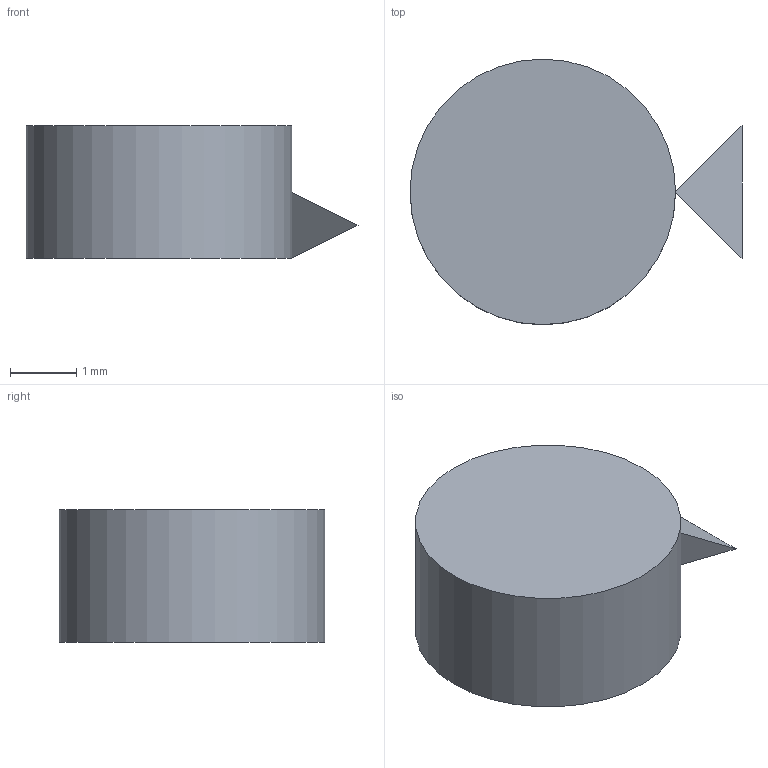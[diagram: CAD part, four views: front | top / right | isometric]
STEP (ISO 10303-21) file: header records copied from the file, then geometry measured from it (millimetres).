
FILE_DESCRIPTION(('BRL-CAD AP214 distinct-edge keyhole topology fixture'),'2;1');
FILE_NAME('ap214_distinct_edge_keyhole_rejoin.stp','2026-07-26T00:00:00',('BRL-CAD'),('BRL-CAD'),'','','');
FILE_SCHEMA(('AUTOMOTIVE_DESIGN { 1 0 10303 214 3 1 1 1 }'));
Length unit declared in the file: millimetre
Products named in the file (1): distinct_edge_keyhole
Bounding box: 5 x 4 x 2 mm (x, y, z)
Volume: 25.5 mm3; surface area: 53.9 mm2
Topology: 1 solids, 1 shells, 7 faces, 10 edges, 5 vertices
Faces by surface type: plane 6, cylinder 1
Full cylindrical faces by diameter (mm): 4 x1
Entity records: 119 total; most frequent: ORIENTED_EDGE 20, DIRECTION 13, EDGE_CURVE 10, CARTESIAN_POINT 7, AXIS2_PLACEMENT_3D 7, LINE 7, EDGE_LOOP 7, FACE_OUTER_BOUND 7
